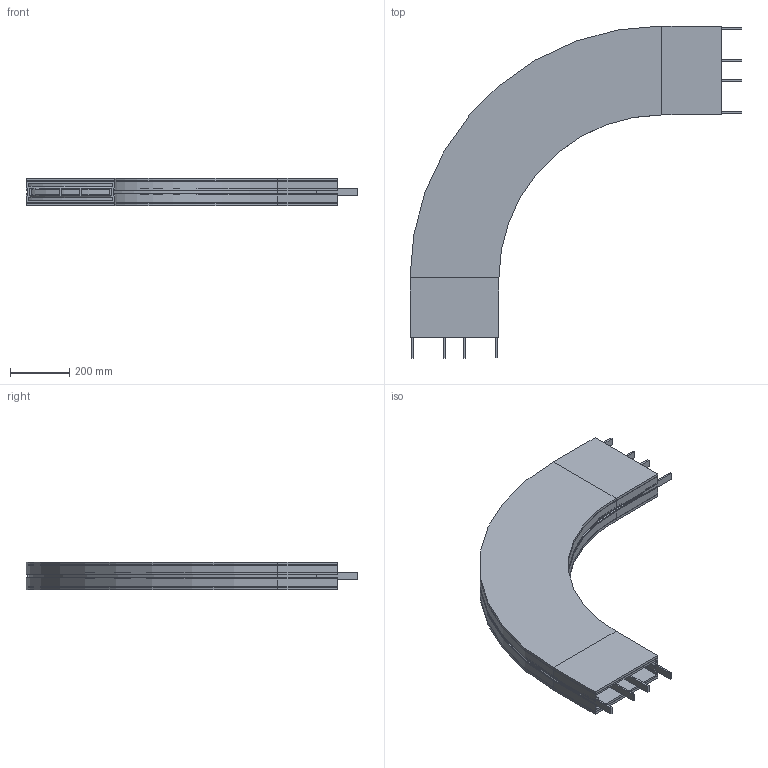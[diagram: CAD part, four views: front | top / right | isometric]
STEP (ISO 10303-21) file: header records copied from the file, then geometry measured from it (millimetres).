
FILE_DESCRIPTION (( 'STEP AP214' ), '1' );
FILE_NAME ('FBBP 90A300R700L200L200.00.step', '2026-05-29T10:20:42', ( '' ), ( '' ), 'SwSTEP 2.0', 'SolidWorks 2024', '' );
FILE_SCHEMA (( 'AUTOMOTIVE_DESIGN' ));
Length unit declared in the file: millimetre
Products named in the file (1): FBBP 90A300R700L200L200.00
Bounding box: 1120 x 1120 x 93 mm (x, y, z)
Volume: 16361280.6 mm3; surface area: 4260523.4 mm2
Topology: 11 solids, 11 shells, 375 faces, 845 edges, 492 vertices
Faces by surface type: plane 274, cone 66, cylinder 30, torus 5
Entity records: 10191 total; most frequent: DIRECTION 1724, CARTESIAN_POINT 1713, ORIENTED_EDGE 1690, EDGE_CURVE 845, VECTOR 718, LINE 718, AXIS2_PLACEMENT_3D 503, VERTEX_POINT 492
